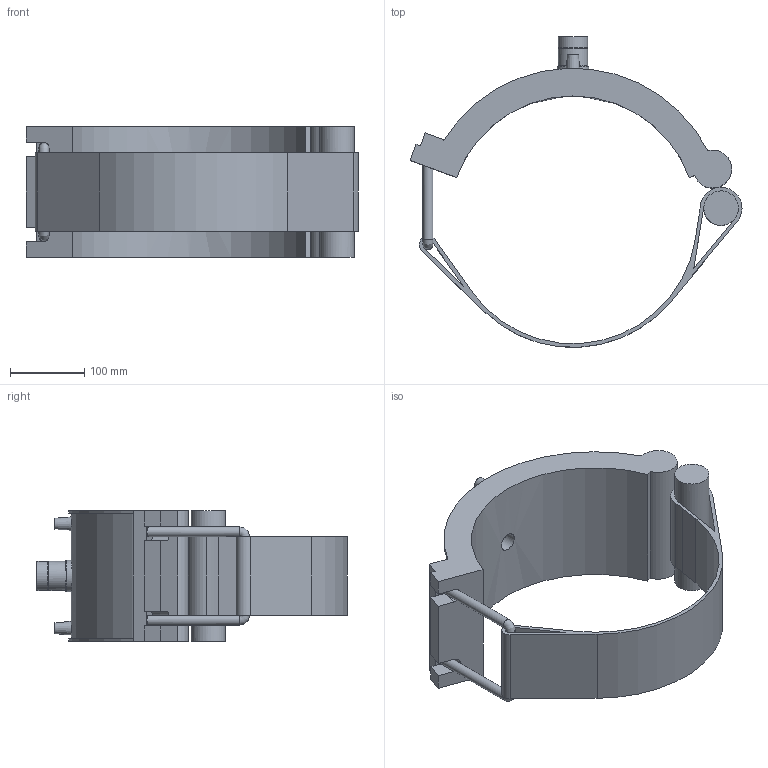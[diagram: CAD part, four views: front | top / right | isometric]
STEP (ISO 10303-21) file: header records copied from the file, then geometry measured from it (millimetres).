
FILE_DESCRIPTION(/* description */ ('PLASSON TRANSITION SADDLE 12''''DIPS x 1"NPT'),/* implementation_level */ '2;1');
FILE_NAME(/* name */ 'C:\Dropbox\KIMPROJECTS-Inventor 2019\99-16-3568-Processing Inch\ASTM ElectroFusion 2021\5938D\5938D01312045.ipt.stp',/* time_stamp */ '2021-08-30T09:52:25+03:00',/* author */ ('KIM'),/* organization */ (''),/* preprocessor_version */ 'ST-DEVELOPER v17.2',/* originating_system */ 'Autodesk Inventor 2019',/* authorisation */ '');
FILE_SCHEMA (('AUTOMOTIVE_DESIGN { 1 0 10303 214 3 1 1 }'));
Length unit declared in the file: inch
Products named in the file (1): 5938D01312045
Bounding box: 447.33 x 418.67 x 176.02 mm (x, y, z)
Volume: 3950257.6 mm3; surface area: 463605.3 mm2
Topology: 1 solids, 1 shells, 78 faces, 202 edges, 132 vertices
Faces by surface type: plane 42, cylinder 28, cone 5, torus 2, bspline 1
Full cylindrical faces by diameter (mm): 4 x2, 10 x2, 13.352 x2, 24.233 x1, 30.291 x1, 38.378 x1, 39.378 x2, 42.407 x1, 46.475 x1
Entity records: 2829 total; most frequent: CARTESIAN_POINT 794, DIRECTION 422, ORIENTED_EDGE 406, EDGE_CURVE 203, AXIS2_PLACEMENT_3D 154, VERTEX_POINT 132, LINE 114, VECTOR 114
